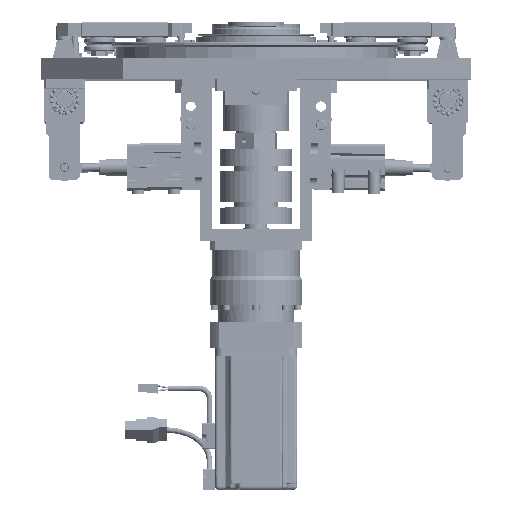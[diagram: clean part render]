
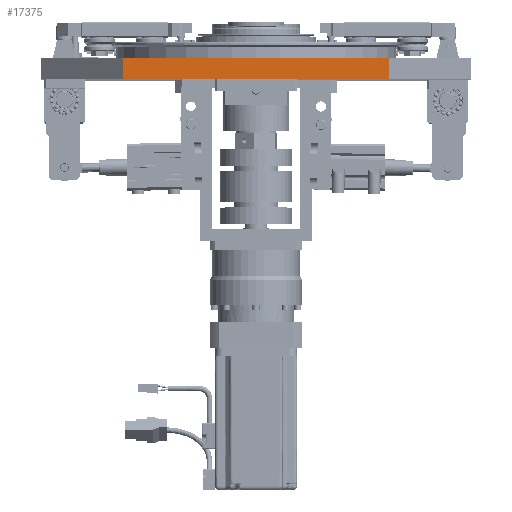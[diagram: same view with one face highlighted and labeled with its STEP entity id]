
A CAD part, top view. The second image highlights one B-rep face of the part: STEP entity #17375.
In plain terms, the highlighted planar face has unit normal (0, 0, 1) as drawn and (-1, 0, 0) by its records, which use the part's own axes.
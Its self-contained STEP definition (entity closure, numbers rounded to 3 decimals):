
#11965 = DIRECTION ( 'NONE',  ( 0., -1., 0. ) ) ;
#14886 = DIRECTION ( 'NONE',  ( 0., 0., -1. ) ) ;
#16757 = LINE ( 'NONE', #44437, #92724 ) ;
#17292 = FACE_OUTER_BOUND ( 'NONE', #51842, .T. ) ;
#17375 = ADVANCED_FACE ( 'NONE', ( #17292 ), #98776, .F. ) ;
#19844 = DIRECTION ( 'NONE',  ( 0., 0., 1. ) ) ;
#22162 = CARTESIAN_POINT ( 'NONE',  ( -580., -210., 0. ) ) ;
#24095 = LINE ( 'NONE', #55461, #71937 ) ;
#24753 = EDGE_CURVE ( 'NONE', #80182, #36593, #16757, .T. ) ;
#32917 = ORIENTED_EDGE ( 'NONE', *, *, #53587, .T. ) ;
#35607 = CARTESIAN_POINT ( 'NONE',  ( -580., -210., 20. ) ) ;
#36416 = ORIENTED_EDGE ( 'NONE', *, *, #24753, .F. ) ;
#36593 = VERTEX_POINT ( 'NONE', #115336 ) ;
#38999 = LINE ( 'NONE', #83074, #116591 ) ;
#42966 = LINE ( 'NONE', #22162, #95787 ) ;
#44437 = CARTESIAN_POINT ( 'NONE',  ( -580., -210., 20. ) ) ;
#44649 = CARTESIAN_POINT ( 'NONE',  ( -580., -130., 0. ) ) ;
#48173 = CARTESIAN_POINT ( 'NONE',  ( -580., 130., 0. ) ) ;
#51842 = EDGE_LOOP ( 'NONE', ( #86081, #54205, #36416, #32917 ) ) ;
#53587 = EDGE_CURVE ( 'NONE', #80182, #107075, #24095, .T. ) ;
#54205 = ORIENTED_EDGE ( 'NONE', *, *, #114499, .T. ) ;
#55461 = CARTESIAN_POINT ( 'NONE',  ( -580., 130., 20. ) ) ;
#56841 = DIRECTION ( 'NONE',  ( 1., 0., 0. ) ) ;
#59602 = CARTESIAN_POINT ( 'NONE',  ( -580., 130., 20. ) ) ;
#66099 = DIRECTION ( 'NONE',  ( 0., 0., -1. ) ) ;
#71937 = VECTOR ( 'NONE', #66099, 1000. ) ;
#80182 = VERTEX_POINT ( 'NONE', #59602 ) ;
#83074 = CARTESIAN_POINT ( 'NONE',  ( -580., -130., 20. ) ) ;
#85248 = AXIS2_PLACEMENT_3D ( 'NONE', #35607, #56841, #14886 ) ;
#86081 = ORIENTED_EDGE ( 'NONE', *, *, #126202, .T. ) ;
#87349 = DIRECTION ( 'NONE',  ( 0., -1., 0. ) ) ;
#92724 = VECTOR ( 'NONE', #87349, 1000. ) ;
#93574 = VERTEX_POINT ( 'NONE', #44649 ) ;
#95787 = VECTOR ( 'NONE', #11965, 1000. ) ;
#98776 = PLANE ( 'NONE',  #85248 ) ;
#107075 = VERTEX_POINT ( 'NONE', #48173 ) ;
#114499 = EDGE_CURVE ( 'NONE', #93574, #36593, #38999, .T. ) ;
#115336 = CARTESIAN_POINT ( 'NONE',  ( -580., -130., 20. ) ) ;
#116591 = VECTOR ( 'NONE', #19844, 1000. ) ;
#126202 = EDGE_CURVE ( 'NONE', #107075, #93574, #42966, .T. ) ;
